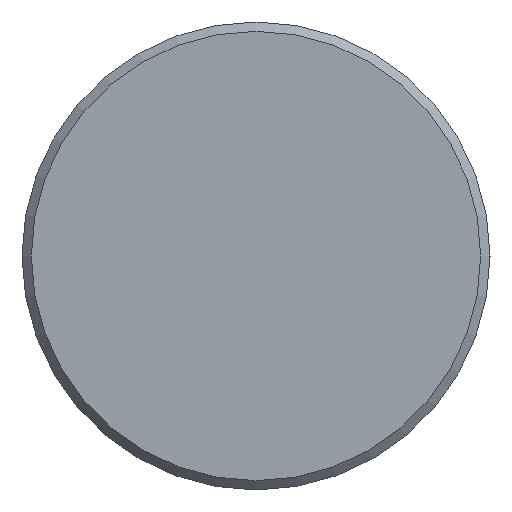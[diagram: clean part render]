
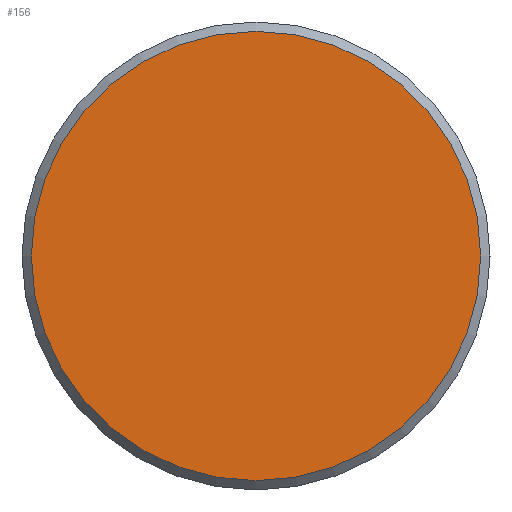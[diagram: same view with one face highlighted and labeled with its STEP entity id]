
A CAD part, left-side view. The second image highlights one B-rep face of the part: STEP entity #156.
In plain terms, the highlighted planar face has unit normal (-1, 0, 0).
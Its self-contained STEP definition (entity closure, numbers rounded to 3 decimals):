
#15=PLANE('',#201);
#36=FACE_OUTER_BOUND('',#45,.T.);
#45=EDGE_LOOP('',(#134));
#58=CIRCLE('',#195,12.);
#72=VERTEX_POINT('',#289);
#90=EDGE_CURVE('',#72,#72,#58,.T.);
#134=ORIENTED_EDGE('',*,*,#90,.F.);
#156=ADVANCED_FACE('',(#36),#15,.T.);
#195=AXIS2_PLACEMENT_3D('',#291,#243,#244);
#201=AXIS2_PLACEMENT_3D('',#300,#256,#257);
#243=DIRECTION('center_axis',(1.,0.,0.));
#244=DIRECTION('ref_axis',(0.,0.,-1.));
#256=DIRECTION('center_axis',(-1.,0.,0.));
#257=DIRECTION('ref_axis',(0.,0.,1.));
#289=CARTESIAN_POINT('',(0.,-12.,0.));
#291=CARTESIAN_POINT('Origin',(0.,0.,0.));
#300=CARTESIAN_POINT('Origin',(0.,12.,0.));
